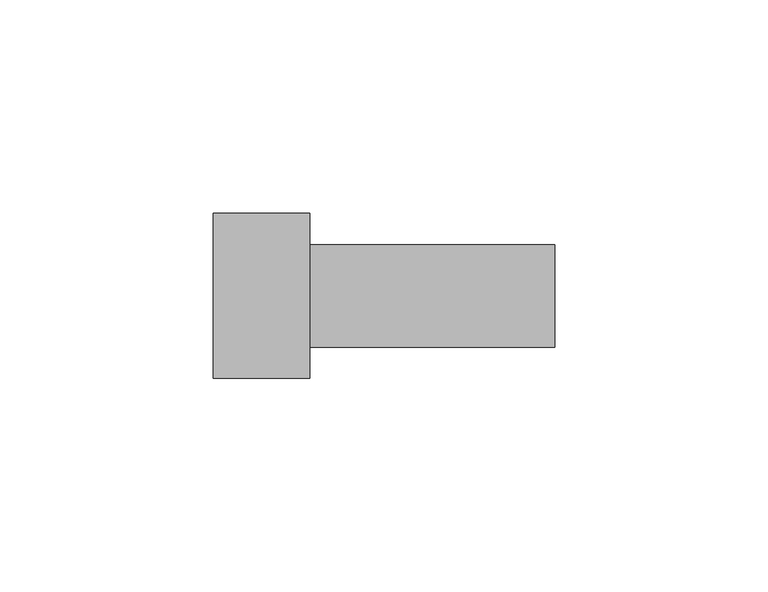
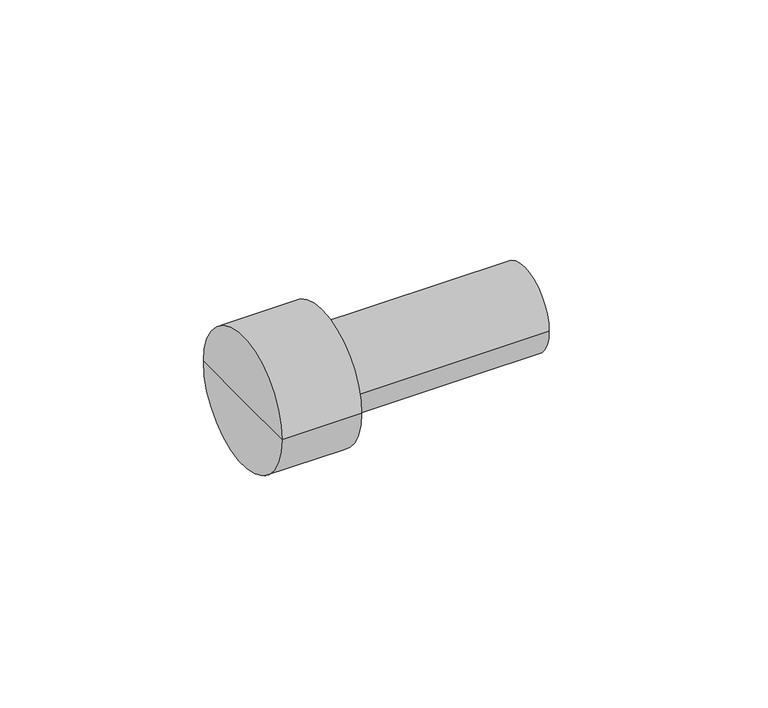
"""IFC4 building model written with IfcOpenShell, lengths in millimetres: cable carrier fitting geometry, Муфта прямая труба-коробка BS : CTA10D-BS20-K41-050."""

from ifc_helpers import new_model, si_unit, frame, origin, place, context, project, spatial, circle_curve, source, transform, mapped, element, save
from ifc_brep_helpers import plane_surface, cylinder_surface, advanced_brep


def cable_carrier_fitting_620ca47f(model_context):
    return source(origin(), model_context, "Body", "AdvancedBrep", [
        advanced_brep(
        [(-17.4590195, -12.0, 0.0), (-17.4590195, 12.0, 0.0), (40.0, 12.0, 0.0), (40.0, -12.0, 0.0), (-40.0, 0.0, 0.0), (-40.0, 19.3253393, 0.0), (-40.0, -19.3253393, 0.0), (40.0, 0.0, 0.0), (-17.4590195, -19.3253393, 0.0), (-17.4590195, 19.3253393, 0.0)],
        [
            (0, 1, circle_curve(frame((-17.4590195, 0.0, 0.0), z_axis=(1.0, 0.0, 0.0), x_axis=(0.0, 1.0, 0.0)), 12.0)),
            (1, 2),
            (2, 3, circle_curve(frame((40.0, 0.0, 0.0), z_axis=(-1.0, 0.0, 0.0), x_axis=(0.0, 1.0, 0.0)), 12.0)),
            (3, 0),
            (1, 0, circle_curve(frame((-17.4590195, 0.0, 0.0), z_axis=(1.0, 0.0, 0.0), x_axis=(0.0, 1.0, 0.0)), 12.0)),
            (3, 2, circle_curve(frame((40.0, 0.0, 0.0), z_axis=(-1.0, 0.0, 0.0), x_axis=(0.0, 1.0, 0.0)), 12.0)),
            (4, 5),
            (5, 6, circle_curve(frame((-40.0, 0.0, 0.0), z_axis=(-1.0, 0.0, 0.0), x_axis=(0.0, 1.0, 0.0)), 19.3253393)),
            (6, 4),
            (6, 5, circle_curve(frame((-40.0, 0.0, 0.0), z_axis=(-1.0, 0.0, 0.0), x_axis=(0.0, 1.0, 0.0)), 19.3253393)),
            (2, 7),
            (7, 3),
            (8, 9, circle_curve(frame((-17.4590195, 0.0, 0.0), z_axis=(1.0, 0.0, 0.0), x_axis=(0.0, 1.0, 0.0)), 19.3253393)),
            (9, 1),
            (0, 8),
            (9, 8, circle_curve(frame((-17.4590195, 0.0, 0.0), z_axis=(1.0, 0.0, 0.0), x_axis=(0.0, 1.0, 0.0)), 19.3253393)),
            (5, 9),
            (8, 6),
        ],
        [
            cylinder_surface(frame((1965.0, 0.0, 0.0), z_axis=(-1.0, 0.0, 0.0), x_axis=(0.0, 1.0, 0.0)), 12.0),
            plane_surface(frame((-40.0, 0.0, 0.0), z_axis=(-1.0, 0.0, 0.0), x_axis=(0.0, 1.0, 0.0))),
            plane_surface(frame((40.0, 0.0, 0.0), z_axis=(1.0, 0.0, 0.0), x_axis=(0.0, 1.0, 0.0))),
            plane_surface(frame((-17.4590195, 0.0, 0.0), z_axis=(1.0, 0.0, 0.0), x_axis=(0.0, 1.0, 0.0))),
            cylinder_surface(frame((1965.0, 0.0, 0.0), z_axis=(-1.0, 0.0, 0.0), x_axis=(0.0, 1.0, 0.0)), 19.3253393),
        ],
        [
            (0, [[1, 2, 3, 4]]),
            (0, [[5, -4, 6, -2]]),
            (1, [[7, 8, 9]]),
            (1, [[-9, 10, -7]]),
            (2, [[-3, 11, 12]]),
            (2, [[-6, -12, -11]]),
            (3, [[13, 14, -1, 15]]),
            (3, [[16, -15, -5, -14]]),
            (4, [[-8, 17, -13, 18]]),
            (4, [[-10, -18, -16, -17]]),
        ],
    ),
    ])


if __name__ == "__main__":
    model = new_model("IFC4")
    model_context = context("Model", 3, world=origin())
    ifc_project = project(units=[si_unit("LENGTHUNIT", "METRE", prefix="MILLI")], contexts=[model_context])
    site = spatial("IfcSite", under=ifc_project)
    building = spatial("IfcBuilding", under=site)
    placement = place(None, origin())
    cable_carrier_fitting_shape = cable_carrier_fitting_620ca47f(model_context)
    element("IfcCableCarrierFitting", 1, ObjectType="Муфта прямая труба-коробка BS : CTA10D-BS20-K41-050", at=placement, inside=building, context=model_context, shape_type="MappedRepresentation", body=[
        mapped(cable_carrier_fitting_shape, transform((0.0, 0.0, 0.0), x_axis=(1.0, 0.0, 0.0), y_axis=(0.0, 1.0, 0.0), z_axis=(0.0, 0.0, 1.0))),
    ])
    save(model, "model.ifc")
